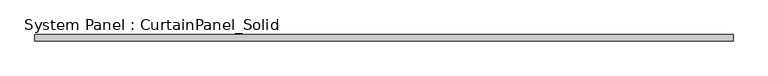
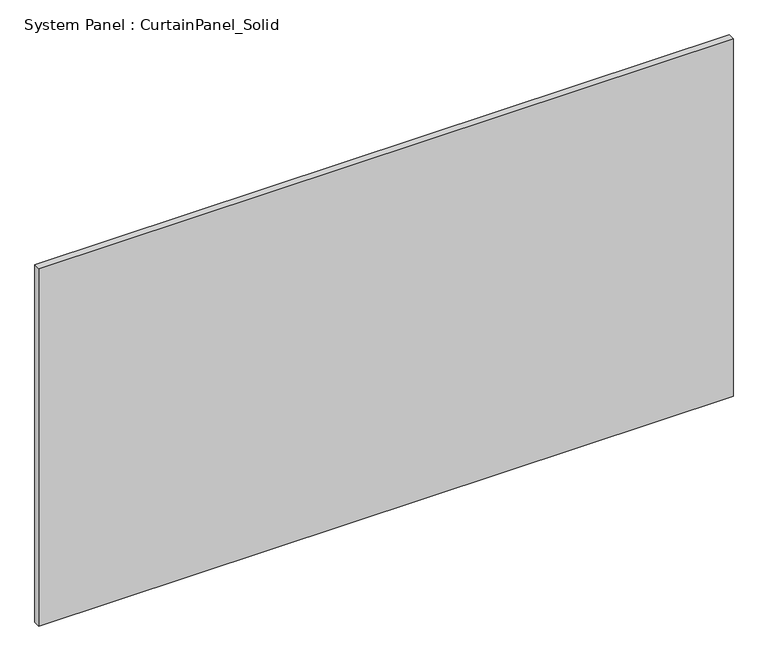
"""IFC4 building model written with IfcOpenShell, lengths in millimetres: plate geometry, System Panel : CurtainPanel_Solid."""

from ifc_helpers import new_model, si_unit, origin, origin_with_axes, place, context, project, spatial, polyline, outline, extrude, source, transform, mapped, element, save


def system_panel_curtainpanel_solid_60141125(model_context):
    return source(origin(), model_context, "Body", "SweptSolid", [
        extrude(outline(polyline([(1332.3000001, -12.5), (-1332.3000001, -12.5), (-1332.3000001, 12.5), (1332.3000001, 12.5), (1332.3000001, -12.5)])), origin_with_axes(), (0.0, 0.0, 1.0), 1450.0),
    ])


if __name__ == "__main__":
    model = new_model("IFC4")
    model_context = context("Model", 3, world=origin())
    ifc_project = project(units=[si_unit("LENGTHUNIT", "METRE", prefix="MILLI")], contexts=[model_context])
    site = spatial("IfcSite", under=ifc_project)
    building = spatial("IfcBuilding", under=site)
    placement = place(None, origin())
    system_panel_curtainpanel_solid_shape = system_panel_curtainpanel_solid_60141125(model_context)
    element("IfcPlate", 1, ObjectType="System Panel : CurtainPanel_Solid", at=placement, inside=building, context=model_context, shape_type="MappedRepresentation", body=[
        mapped(system_panel_curtainpanel_solid_shape, transform((0.0, 0.0, 0.0), x_axis=(1.0, 0.0, 0.0), y_axis=(0.0, 1.0, 0.0), z_axis=(0.0, 0.0, 1.0))),
    ])
    save(model, "model.ifc")
